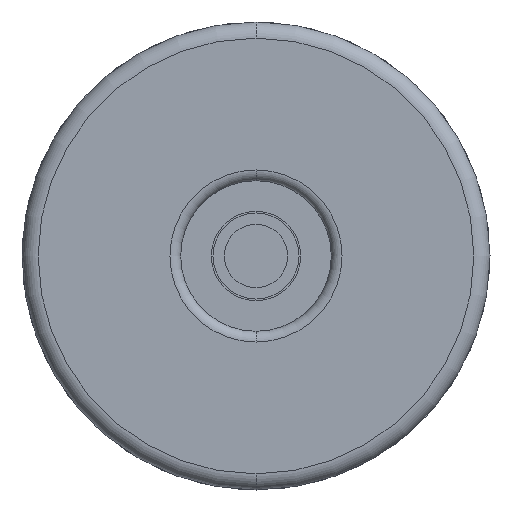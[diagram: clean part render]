
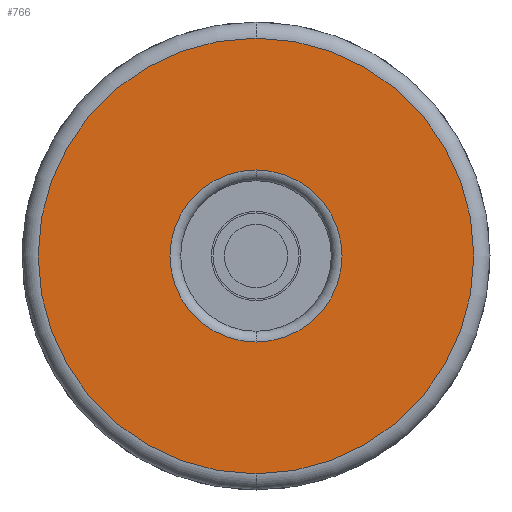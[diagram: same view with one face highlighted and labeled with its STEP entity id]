
A CAD part, front view. The second image highlights one B-rep face of the part: STEP entity #766.
In plain terms, the highlighted planar face has unit normal (0, -1, 0).
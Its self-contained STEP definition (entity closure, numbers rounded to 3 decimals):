
#1 = FACE_BOUND ( 'NONE', #3449, .T. ) ;
#70 = CIRCLE ( 'NONE', #1724, 20.25 ) ;
#347 = DIRECTION ( 'NONE',  ( 0., 0., -1. ) ) ;
#477 = ORIENTED_EDGE ( 'NONE', *, *, #1077, .T. ) ;
#595 = CARTESIAN_POINT ( 'NONE',  ( 0., 0., -20.25 ) ) ;
#696 = CARTESIAN_POINT ( 'NONE',  ( 0., 0., 0. ) ) ;
#766 = ADVANCED_FACE ( 'NONE', ( #1143, #1 ), #1218, .T. ) ;
#782 = CIRCLE ( 'NONE', #2553, 20.25 ) ;
#891 = VERTEX_POINT ( 'NONE', #595 ) ;
#956 = CARTESIAN_POINT ( 'NONE',  ( 0., 0., 0. ) ) ;
#1018 = DIRECTION ( 'NONE',  ( 0., -1., 0. ) ) ;
#1077 = EDGE_CURVE ( 'NONE', #1339, #1270, #2640, .T. ) ;
#1079 = CARTESIAN_POINT ( 'NONE',  ( 0., 0., 0. ) ) ;
#1102 = AXIS2_PLACEMENT_3D ( 'NONE', #956, #3896, #3547 ) ;
#1143 = FACE_OUTER_BOUND ( 'NONE', #3798, .T. ) ;
#1218 = PLANE ( 'NONE',  #3968 ) ;
#1270 = VERTEX_POINT ( 'NONE', #2376 ) ;
#1339 = VERTEX_POINT ( 'NONE', #4600 ) ;
#1389 = EDGE_CURVE ( 'NONE', #1270, #1339, #2401, .T. ) ;
#1425 = EDGE_CURVE ( 'NONE', #891, #4303, #782, .T. ) ;
#1457 = DIRECTION ( 'NONE',  ( 0., -1., 0. ) ) ;
#1463 = ORIENTED_EDGE ( 'NONE', *, *, #1425, .T. ) ;
#1724 = AXIS2_PLACEMENT_3D ( 'NONE', #1079, #1457, #3668 ) ;
#1786 = CARTESIAN_POINT ( 'NONE',  ( 0., 0., 0. ) ) ;
#2214 = DIRECTION ( 'NONE',  ( 0., 1., 0. ) ) ;
#2348 = DIRECTION ( 'NONE',  ( 0., -1., 0. ) ) ;
#2376 = CARTESIAN_POINT ( 'NONE',  ( 0., 0., 8. ) ) ;
#2401 = CIRCLE ( 'NONE', #1102, 8. ) ;
#2513 = DIRECTION ( 'NONE',  ( 0., 0., -1. ) ) ;
#2553 = AXIS2_PLACEMENT_3D ( 'NONE', #1786, #1018, #2513 ) ;
#2640 = CIRCLE ( 'NONE', #2808, 8. ) ;
#2685 = ORIENTED_EDGE ( 'NONE', *, *, #1389, .T. ) ;
#2808 = AXIS2_PLACEMENT_3D ( 'NONE', #696, #2214, #347 ) ;
#2948 = CARTESIAN_POINT ( 'NONE',  ( 0., 0., 20.25 ) ) ;
#3449 = EDGE_LOOP ( 'NONE', ( #477, #2685 ) ) ;
#3498 = DIRECTION ( 'NONE',  ( 0., 0., -1. ) ) ;
#3547 = DIRECTION ( 'NONE',  ( 0., 0., -1. ) ) ;
#3668 = DIRECTION ( 'NONE',  ( 0., 0., -1. ) ) ;
#3736 = ORIENTED_EDGE ( 'NONE', *, *, #3948, .T. ) ;
#3798 = EDGE_LOOP ( 'NONE', ( #1463, #3736 ) ) ;
#3896 = DIRECTION ( 'NONE',  ( 0., 1., 0. ) ) ;
#3948 = EDGE_CURVE ( 'NONE', #4303, #891, #70, .T. ) ;
#3968 = AXIS2_PLACEMENT_3D ( 'NONE', #4603, #2348, #3498 ) ;
#4303 = VERTEX_POINT ( 'NONE', #2948 ) ;
#4600 = CARTESIAN_POINT ( 'NONE',  ( 0., 0., -8. ) ) ;
#4603 = CARTESIAN_POINT ( 'NONE',  ( -7., 0., 0. ) ) ;
